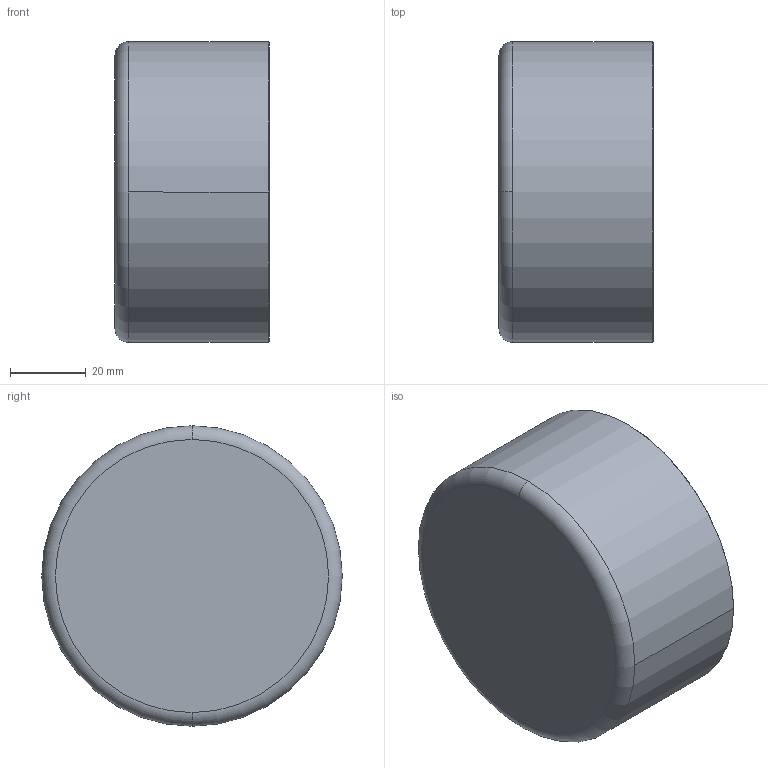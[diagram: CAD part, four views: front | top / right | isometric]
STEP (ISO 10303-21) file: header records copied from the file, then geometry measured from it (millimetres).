
FILE_DESCRIPTION((''),'2;1');
FILE_NAME('C:\sanha_work\5130\f\530176.stp','2005-10-21T18:20:05',('Kris'),(''),'Autodesk Inventor 8','Autodesk Inventor 8','');
FILE_SCHEMA(('AUTOMOTIVE_DESIGN { 1 0 10303 214 1 1 1 1 }'));
Length unit declared in the file: millimetre
Products named in the file (1): 530176
Bounding box: 40.6 x 79.2 x 79.2 mm (x, y, z)
Volume: 22609.6 mm3; surface area: 28612.5 mm2
Topology: 1 solids, 1 shells, 15 faces, 34 edges, 22 vertices
Faces by surface type: torus 4, cylinder 4, cone 4, plane 3
Entity records: 461 total; most frequent: DIRECTION 92, CARTESIAN_POINT 72, ORIENTED_EDGE 68, AXIS2_PLACEMENT_3D 42, EDGE_CURVE 34, CIRCLE 26, VERTEX_POINT 22, EDGE_LOOP 16
